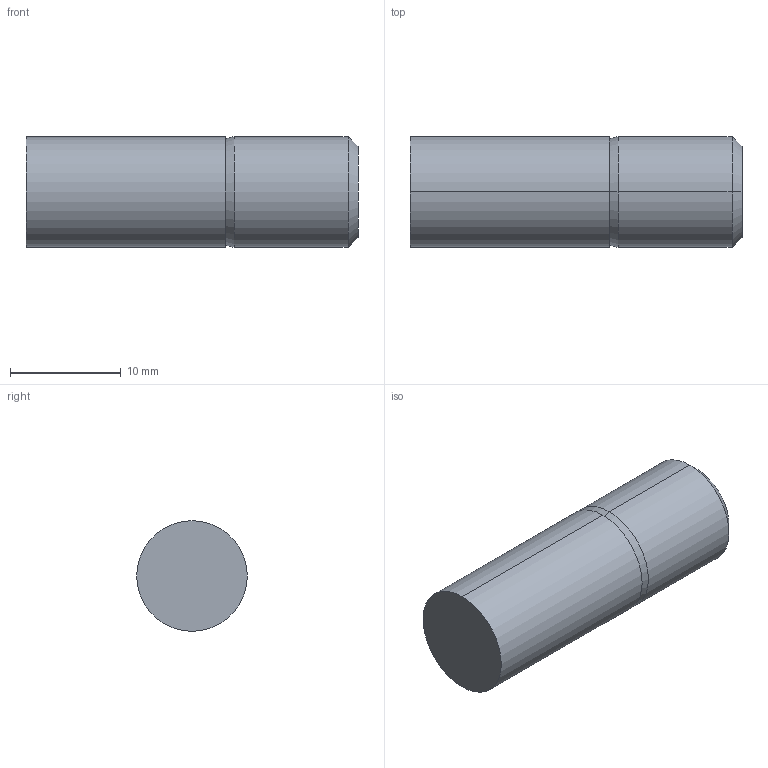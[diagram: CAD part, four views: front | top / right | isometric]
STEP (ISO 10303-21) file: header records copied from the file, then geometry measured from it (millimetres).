
FILE_DESCRIPTION (( 'STEP AP203' ), '1' );
FILE_NAME ('S3-10.STEP', '2002-08-16T10:49:25', ( '.' ), ( '.' ), 'SwSTEP 2.0', 'SolidWorks 2001340', '' );
FILE_SCHEMA (( 'CONFIG_CONTROL_DESIGN' ));
Length unit declared in the file: millimetre
Products named in the file (1): S3-10
Bounding box: 30 x 10 x 10 mm (x, y, z)
Volume: 2341.6 mm3; surface area: 1088.9 mm2
Topology: 1 solids, 1 shells, 11 faces, 20 edges, 12 vertices
Faces by surface type: cylinder 4, cone 4, plane 3
Entity records: 351 total; most frequent: DIRECTION 56, CARTESIAN_POINT 44, ORIENTED_EDGE 40, AXIS2_PLACEMENT_3D 24, EDGE_CURVE 20, CIRCLE 12, EDGE_LOOP 12, VERTEX_POINT 12
